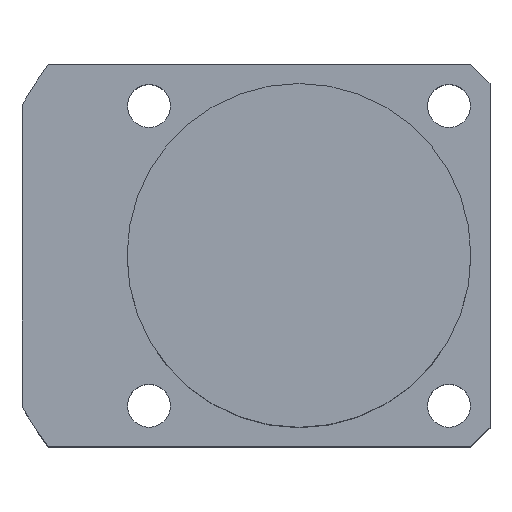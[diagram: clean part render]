
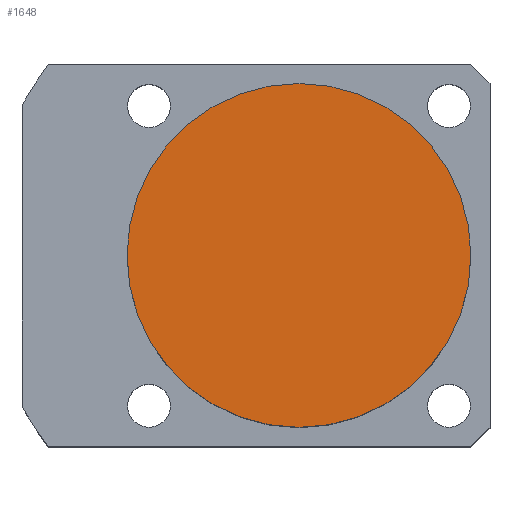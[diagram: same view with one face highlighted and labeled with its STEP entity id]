
A CAD part, top view. The second image highlights one B-rep face of the part: STEP entity #1648.
In plain terms, the highlighted planar face has unit normal (0, 0, 1).
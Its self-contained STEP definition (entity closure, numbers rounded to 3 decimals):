
#1590=CARTESIAN_POINT('',(-0.0,18.0,33.5));
#1591=VERTEX_POINT('',#1590);
#1598=CARTESIAN_POINT('',(18.0,0.0,33.5));
#1599=VERTEX_POINT('',#1598);
#1600=CARTESIAN_POINT('',(0.0,0.0,33.5));
#1601=DIRECTION('',(0.0,0.0,1.0));
#1602=DIRECTION('',(1.0,0.0,0.0));
#1603=AXIS2_PLACEMENT_3D('',#1600,#1601,#1602);
#1604=CIRCLE('',#1603,18.0);
#1605=EDGE_CURVE('no 2065',#1599,#1591,#1604,.T.);
#1607=CARTESIAN_POINT('',(-0.0,-18.0,33.5));
#1608=VERTEX_POINT('',#1607);
#1609=CARTESIAN_POINT('',(0.0,0.0,33.5));
#1610=DIRECTION('',(0.0,0.0,1.0));
#1611=DIRECTION('',(1.0,0.0,0.0));
#1612=AXIS2_PLACEMENT_3D('',#1609,#1610,#1611);
#1613=CIRCLE('',#1612,18.0);
#1614=EDGE_CURVE('no 2071',#1608,#1599,#1613,.T.);
#1632=ORIENTED_EDGE('',*,*,#1605,.T.);
#1633=CARTESIAN_POINT('',(0.0,0.0,33.5));
#1634=DIRECTION('',(0.0,0.0,1.0));
#1635=DIRECTION('',(1.0,0.0,0.0));
#1636=AXIS2_PLACEMENT_3D('',#1633,#1634,#1635);
#1637=CIRCLE('',#1636,18.0);
#1638=EDGE_CURVE('no 2088',#1591,#1608,#1637,.T.);
#1639=ORIENTED_EDGE('',*,*,#1638,.T.);
#1640=ORIENTED_EDGE('',*,*,#1614,.T.);
#1641=EDGE_LOOP('',(#1632,#1639,#1640));
#1642=FACE_OUTER_BOUND('',#1641,.T.);
#1643=CARTESIAN_POINT('',(0.0,0.0,33.5));
#1644=DIRECTION('',(0.0,0.0,1.0));
#1645=DIRECTION('',(1.0,0.0,0.0));
#1646=AXIS2_PLACEMENT_3D('',#1643,#1644,#1645);
#1647=PLANE('',#1646);
#1648=ADVANCED_FACE('no 2081',(#1642),#1647,.T.);
